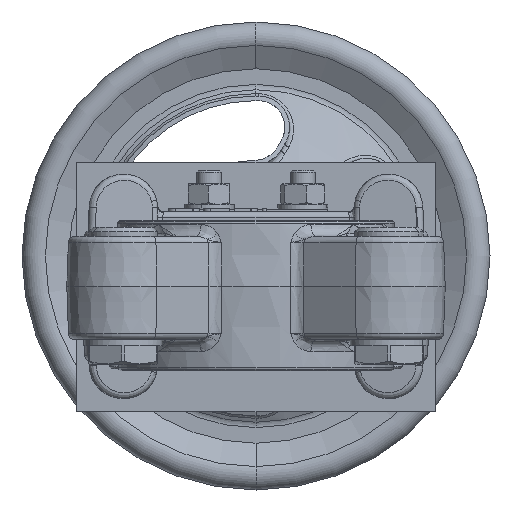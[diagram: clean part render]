
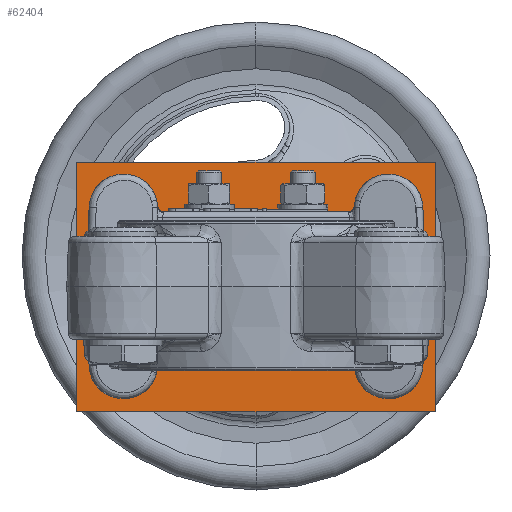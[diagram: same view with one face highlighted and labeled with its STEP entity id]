
A CAD part, front view. The second image highlights one B-rep face of the part: STEP entity #62404.
In plain terms, the highlighted planar face has unit normal (0, -1, 0).
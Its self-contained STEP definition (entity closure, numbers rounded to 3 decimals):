
#533 = CIRCLE ( 'NONE', #5079, 10. ) ;
#2699 = CARTESIAN_POINT ( 'NONE',  ( -57.5, 196.5, -40.25 ) ) ;
#3082 = FACE_BOUND ( 'NONE', #31426, .T. ) ;
#3154 = CARTESIAN_POINT ( 'NONE',  ( -57.5, 196.5, -40.25 ) ) ;
#3445 = EDGE_CURVE ( 'NONE', #4171, #62973, #50096, .T. ) ;
#3493 = AXIS2_PLACEMENT_3D ( 'NONE', #4926, #36492, #9783 ) ;
#3567 = CARTESIAN_POINT ( 'NONE',  ( -42.5, 196.5, -25.25 ) ) ;
#4171 = VERTEX_POINT ( 'NONE', #48142 ) ;
#4733 = DIRECTION ( 'NONE',  ( 0., 0., 1. ) ) ;
#4926 = CARTESIAN_POINT ( 'NONE',  ( -42.5, 196.5, -25.25 ) ) ;
#4955 = EDGE_CURVE ( 'NONE', #58585, #10857, #65433, .T. ) ;
#5079 = AXIS2_PLACEMENT_3D ( 'NONE', #37259, #63438, #63793 ) ;
#6772 = CARTESIAN_POINT ( 'NONE',  ( 49.826, 196.5, 23.145 ) ) ;
#6849 = ORIENTED_EDGE ( 'NONE', *, *, #18548, .F. ) ;
#7089 = EDGE_CURVE ( 'NONE', #16167, #28315, #34023, .T. ) ;
#7217 = VERTEX_POINT ( 'NONE', #66738 ) ;
#7715 = AXIS2_PLACEMENT_3D ( 'NONE', #55646, #33661, #55985 ) ;
#7846 = CIRCLE ( 'NONE', #45594, 10. ) ;
#8285 = FACE_OUTER_BOUND ( 'NONE', #24121, .T. ) ;
#8564 = ORIENTED_EDGE ( 'NONE', *, *, #13853, .T. ) ;
#8837 = ORIENTED_EDGE ( 'NONE', *, *, #4955, .T. ) ;
#8936 = DIRECTION ( 'NONE',  ( 0., 1., 0. ) ) ;
#9783 = DIRECTION ( 'NONE',  ( 0., 0., 1. ) ) ;
#10386 = VERTEX_POINT ( 'NONE', #55987 ) ;
#10857 = VERTEX_POINT ( 'NONE', #48712 ) ;
#11644 = VECTOR ( 'NONE', #48730, 1000. ) ;
#12427 = ORIENTED_EDGE ( 'NONE', *, *, #7089, .F. ) ;
#13853 = EDGE_CURVE ( 'NONE', #58659, #66543, #26228, .T. ) ;
#13908 = CIRCLE ( 'NONE', #47235, 7.5 ) ;
#13941 = CARTESIAN_POINT ( 'NONE',  ( 42.5, 196.5, -25.25 ) ) ;
#14666 = AXIS2_PLACEMENT_3D ( 'NONE', #13941, #56744, #50838 ) ;
#15707 = DIRECTION ( 'NONE',  ( 0., 0., 1. ) ) ;
#16122 = ORIENTED_EDGE ( 'NONE', *, *, #53929, .T. ) ;
#16167 = VERTEX_POINT ( 'NONE', #50997 ) ;
#18482 = AXIS2_PLACEMENT_3D ( 'NONE', #19335, #8936, #55590 ) ;
#18548 = EDGE_CURVE ( 'NONE', #28315, #4171, #39608, .T. ) ;
#19038 = CARTESIAN_POINT ( 'NONE',  ( -57.5, 196.5, -40.25 ) ) ;
#19335 = CARTESIAN_POINT ( 'NONE',  ( -42.5, 196.5, 24.75 ) ) ;
#19525 = DIRECTION ( 'NONE',  ( 0., 1., 0. ) ) ;
#19994 = LINE ( 'NONE', #2699, #20924 ) ;
#20924 = VECTOR ( 'NONE', #40883, 1000. ) ;
#23974 = DIRECTION ( 'NONE',  ( 0., 0., -1. ) ) ;
#24121 = EDGE_LOOP ( 'NONE', ( #64372, #31172, #6849, #12427 ) ) ;
#24805 = VERTEX_POINT ( 'NONE', #58641 ) ;
#25109 = CARTESIAN_POINT ( 'NONE',  ( -57.5, 196.5, 39.75 ) ) ;
#25524 = CARTESIAN_POINT ( 'NONE',  ( 0., 196.5, 9.75 ) ) ;
#26228 = CIRCLE ( 'NONE', #18482, 7.5 ) ;
#26779 = AXIS2_PLACEMENT_3D ( 'NONE', #45781, #30738, #4733 ) ;
#27078 = CIRCLE ( 'NONE', #28147, 7.5 ) ;
#27235 = EDGE_CURVE ( 'NONE', #40275, #7217, #31198, .T. ) ;
#27388 = CARTESIAN_POINT ( 'NONE',  ( 42.5, 196.5, -25.25 ) ) ;
#28147 = AXIS2_PLACEMENT_3D ( 'NONE', #3567, #30598, #58466 ) ;
#28315 = VERTEX_POINT ( 'NONE', #35746 ) ;
#29145 = CARTESIAN_POINT ( 'NONE',  ( 57.5, 196.5, -40.25 ) ) ;
#30206 = ORIENTED_EDGE ( 'NONE', *, *, #53821, .T. ) ;
#30598 = DIRECTION ( 'NONE',  ( 0., 1., 0. ) ) ;
#30738 = DIRECTION ( 'NONE',  ( 0., 1., 0. ) ) ;
#31172 = ORIENTED_EDGE ( 'NONE', *, *, #3445, .F. ) ;
#31198 = CIRCLE ( 'NONE', #3493, 7.5 ) ;
#31239 = CIRCLE ( 'NONE', #26779, 7.5 ) ;
#31290 = EDGE_CURVE ( 'NONE', #40805, #10386, #38391, .T. ) ;
#31426 = EDGE_LOOP ( 'NONE', ( #38089, #41555 ) ) ;
#31981 = DIRECTION ( 'NONE',  ( 0., 1., 0. ) ) ;
#32180 = VERTEX_POINT ( 'NONE', #65518 ) ;
#33661 = DIRECTION ( 'NONE',  ( 0., 1., 0. ) ) ;
#33772 = VECTOR ( 'NONE', #23974, 1000. ) ;
#34023 = LINE ( 'NONE', #37876, #11644 ) ;
#34649 = FACE_BOUND ( 'NONE', #60099, .T. ) ;
#35746 = CARTESIAN_POINT ( 'NONE',  ( 57.5, 196.5, 39.75 ) ) ;
#36035 = ORIENTED_EDGE ( 'NONE', *, *, #31290, .T. ) ;
#36492 = DIRECTION ( 'NONE',  ( 0., 1., 0. ) ) ;
#37259 = CARTESIAN_POINT ( 'NONE',  ( 0., 196.5, 9.75 ) ) ;
#37876 = CARTESIAN_POINT ( 'NONE',  ( -57.5, 196.5, 39.75 ) ) ;
#38074 = CARTESIAN_POINT ( 'NONE',  ( -44.093, 196.5, -17.921 ) ) ;
#38089 = ORIENTED_EDGE ( 'NONE', *, *, #27235, .T. ) ;
#38391 = CIRCLE ( 'NONE', #42883, 7.5 ) ;
#38472 = AXIS2_PLACEMENT_3D ( 'NONE', #25109, #51574, #15707 ) ;
#39261 = DIRECTION ( 'NONE',  ( -1., 0., 0. ) ) ;
#39608 = LINE ( 'NONE', #29145, #33772 ) ;
#40230 = CARTESIAN_POINT ( 'NONE',  ( -41.935, 196.5, 17.271 ) ) ;
#40275 = VERTEX_POINT ( 'NONE', #38074 ) ;
#40690 = EDGE_LOOP ( 'NONE', ( #49713, #65547 ) ) ;
#40805 = VERTEX_POINT ( 'NONE', #53121 ) ;
#40883 = DIRECTION ( 'NONE',  ( 0., 0., 1. ) ) ;
#41555 = ORIENTED_EDGE ( 'NONE', *, *, #55793, .T. ) ;
#42846 = CARTESIAN_POINT ( 'NONE',  ( 42.5, 196.5, 24.75 ) ) ;
#42883 = AXIS2_PLACEMENT_3D ( 'NONE', #27388, #19525, #59119 ) ;
#43583 = CIRCLE ( 'NONE', #14666, 7.5 ) ;
#44805 = EDGE_CURVE ( 'NONE', #62973, #16167, #19994, .T. ) ;
#45594 = AXIS2_PLACEMENT_3D ( 'NONE', #25524, #46778, #67919 ) ;
#45781 = CARTESIAN_POINT ( 'NONE',  ( -42.5, 196.5, 24.75 ) ) ;
#45833 = FACE_BOUND ( 'NONE', #63476, .T. ) ;
#46327 = EDGE_CURVE ( 'NONE', #24805, #32180, #533, .T. ) ;
#46711 = EDGE_CURVE ( 'NONE', #10857, #58585, #13908, .T. ) ;
#46778 = DIRECTION ( 'NONE',  ( 0., 1., 0. ) ) ;
#47235 = AXIS2_PLACEMENT_3D ( 'NONE', #42846, #31981, #58158 ) ;
#48142 = CARTESIAN_POINT ( 'NONE',  ( 57.5, 196.5, -40.25 ) ) ;
#48492 = CARTESIAN_POINT ( 'NONE',  ( -43.065, 196.5, 32.229 ) ) ;
#48712 = CARTESIAN_POINT ( 'NONE',  ( 35.174, 196.5, 26.355 ) ) ;
#48730 = DIRECTION ( 'NONE',  ( 1., 0., 0. ) ) ;
#49713 = ORIENTED_EDGE ( 'NONE', *, *, #68362, .T. ) ;
#50096 = LINE ( 'NONE', #3154, #50740 ) ;
#50709 = FACE_BOUND ( 'NONE', #68573, .T. ) ;
#50740 = VECTOR ( 'NONE', #39261, 1000. ) ;
#50838 = DIRECTION ( 'NONE',  ( 0., 0., 1. ) ) ;
#50997 = CARTESIAN_POINT ( 'NONE',  ( -57.5, 196.5, 39.75 ) ) ;
#51574 = DIRECTION ( 'NONE',  ( 0., 1., 0. ) ) ;
#53121 = CARTESIAN_POINT ( 'NONE',  ( 49.305, 196.5, -22.098 ) ) ;
#53821 = EDGE_CURVE ( 'NONE', #66543, #58659, #31239, .T. ) ;
#53929 = EDGE_CURVE ( 'NONE', #10386, #40805, #43583, .T. ) ;
#55590 = DIRECTION ( 'NONE',  ( 0., 0., 1. ) ) ;
#55646 = CARTESIAN_POINT ( 'NONE',  ( 42.5, 196.5, 24.75 ) ) ;
#55793 = EDGE_CURVE ( 'NONE', #7217, #40275, #27078, .T. ) ;
#55943 = FACE_BOUND ( 'NONE', #40690, .T. ) ;
#55985 = DIRECTION ( 'NONE',  ( 0., 0., 1. ) ) ;
#55987 = CARTESIAN_POINT ( 'NONE',  ( 35.695, 196.5, -28.402 ) ) ;
#56744 = DIRECTION ( 'NONE',  ( 0., 1., 0. ) ) ;
#58158 = DIRECTION ( 'NONE',  ( 0., 0., 1. ) ) ;
#58466 = DIRECTION ( 'NONE',  ( 0., 0., 1. ) ) ;
#58585 = VERTEX_POINT ( 'NONE', #6772 ) ;
#58641 = CARTESIAN_POINT ( 'NONE',  ( 8.348, 196.5, 4.245 ) ) ;
#58659 = VERTEX_POINT ( 'NONE', #48492 ) ;
#59119 = DIRECTION ( 'NONE',  ( 0., 0., 1. ) ) ;
#60099 = EDGE_LOOP ( 'NONE', ( #8837, #65166 ) ) ;
#62404 = ADVANCED_FACE ( 'NONE', ( #45833, #34649, #55943, #8285, #50709, #3082 ), #62698, .F. ) ;
#62698 = PLANE ( 'NONE',  #38472 ) ;
#62973 = VERTEX_POINT ( 'NONE', #19038 ) ;
#63438 = DIRECTION ( 'NONE',  ( 0., 1., 0. ) ) ;
#63476 = EDGE_LOOP ( 'NONE', ( #16122, #36035 ) ) ;
#63793 = DIRECTION ( 'NONE',  ( 0., 0., 1. ) ) ;
#64372 = ORIENTED_EDGE ( 'NONE', *, *, #44805, .F. ) ;
#65166 = ORIENTED_EDGE ( 'NONE', *, *, #46711, .T. ) ;
#65433 = CIRCLE ( 'NONE', #7715, 7.5 ) ;
#65518 = CARTESIAN_POINT ( 'NONE',  ( -8.348, 196.5, 15.255 ) ) ;
#65547 = ORIENTED_EDGE ( 'NONE', *, *, #46327, .T. ) ;
#66543 = VERTEX_POINT ( 'NONE', #40230 ) ;
#66738 = CARTESIAN_POINT ( 'NONE',  ( -40.907, 196.5, -32.579 ) ) ;
#67919 = DIRECTION ( 'NONE',  ( 0., 0., 1. ) ) ;
#68362 = EDGE_CURVE ( 'NONE', #32180, #24805, #7846, .T. ) ;
#68573 = EDGE_LOOP ( 'NONE', ( #30206, #8564 ) ) ;
